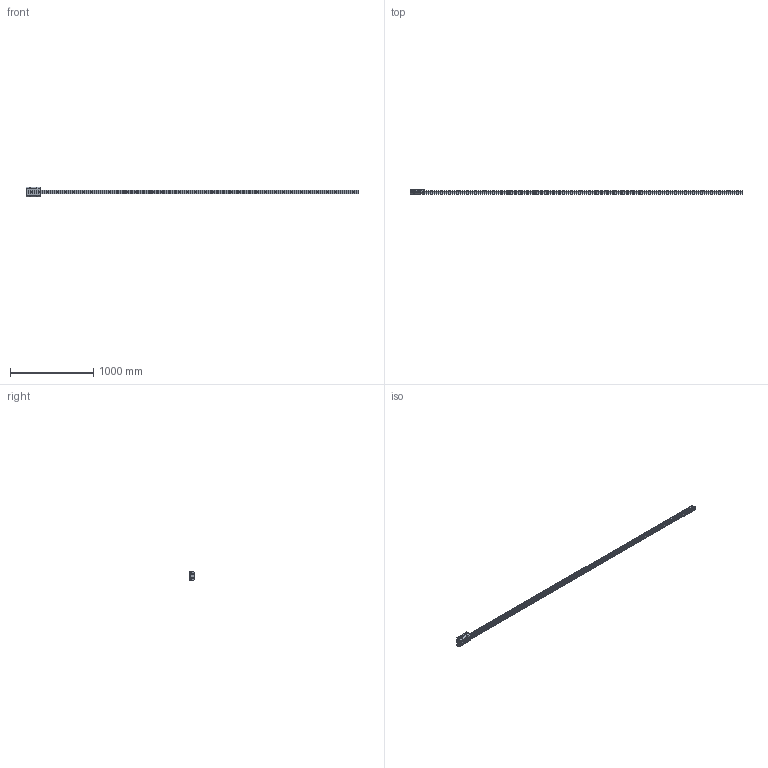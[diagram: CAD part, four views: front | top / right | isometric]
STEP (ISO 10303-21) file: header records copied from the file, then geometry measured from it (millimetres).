
FILE_DESCRIPTION( ( 'STEP AP203' ), '1' );
FILE_NAME( 'p:/temp/worker_9/temp/exporttempdir_496_193_aYOxV/format_0/FDG45 84365LN_4000-0.stp', '2021-04-27T06:46:00', ( 'License CC BY-ND 4.0' ), ( 'CADENAS' ), ' ', 'PARTsolutions', ' ' );
FILE_SCHEMA( ( 'CONFIG_CONTROL_DESIGN' ) );
Length unit declared in the file: millimetre
Products named in the file (3): FDG45 84365LN_4000-0; _FD_45K-4000-0; _FD_45K Rollenhalter
Assembly tree (2 placements, depth 2):
  FDG45 84365LN_4000-0
    _FD_45K-4000-0
    _FD_45K Rollenhalter
Bounding box: 4000 x 60 x 120 mm (x, y, z)
Volume: 6882141.7 mm3; surface area: 969408.3 mm2
Topology: 2 solids, 2 shells, 615 faces, 1649 edges, 1109 vertices
Faces by surface type: plane 346, cylinder 258, torus 8, cone 3
Full cylindrical faces by diameter (mm): 4.2 x1, 10.106 x4, 11 x38, 13 x8, 14 x4, 15 x8, 18 x38
Entity records: 18695 total; most frequent: DIRECTION 3241, CARTESIAN_POINT 3232, ORIENTED_EDGE 2982, EDGE_CURVE 1491, AXIS2_PLACEMENT_3D 1143, VERTEX_POINT 1060, LINE 955, VECTOR 955
